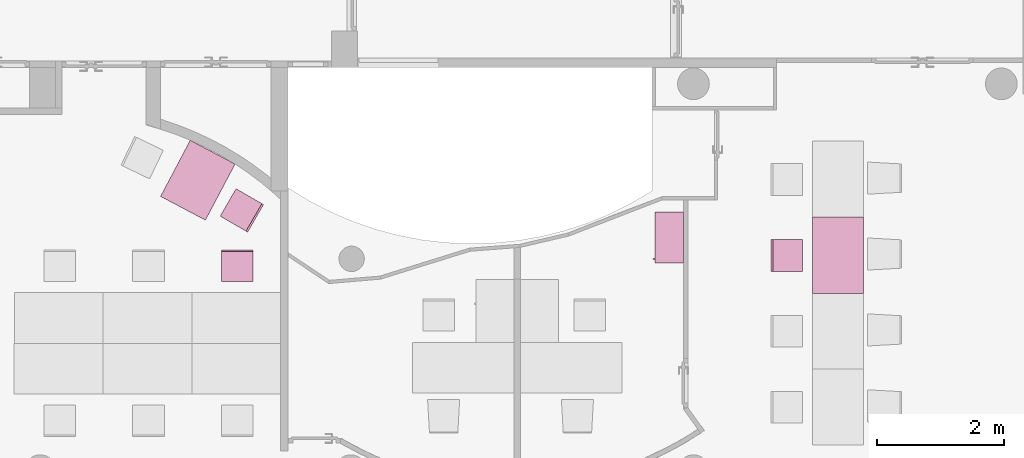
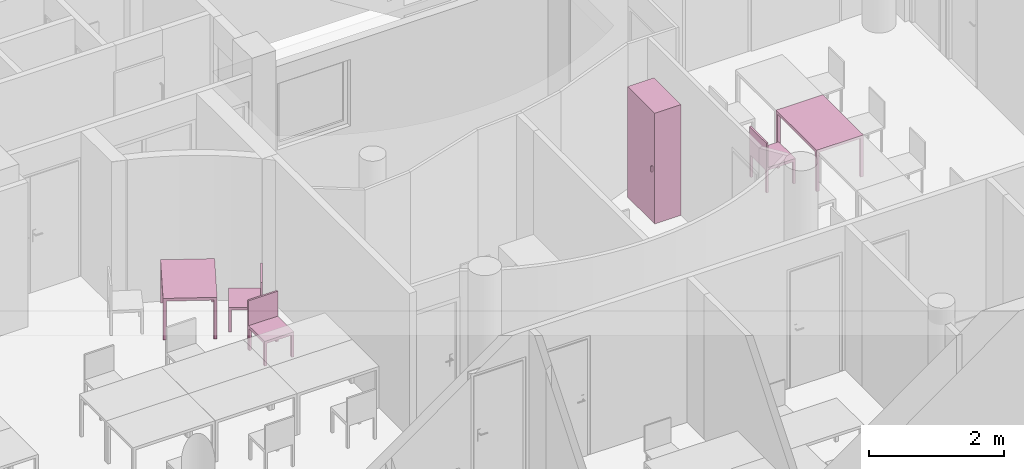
"""IFC4 building model written with IfcOpenShell, lengths in metres."""

from ifc_helpers import new_model, entity, si_unit, converted_unit, derived_unit, frame, origin, place, context, subcontext, project, spatial, faceted_brep, element, save


model = new_model("IFC4")

# Units and contexts
model_context = context("Model", 3, precision=1e-05, world=origin())
body_context = subcontext(model_context, "Body", "Model", "MODEL_VIEW")
ifc_project = project(units=[si_unit("LENGTHUNIT", "METRE"), si_unit("AREAUNIT", "SQUARE_METRE"), si_unit("VOLUMEUNIT", "CUBIC_METRE"), si_unit("MASSUNIT", "GRAM", prefix="KILO"), converted_unit("PLANEANGLEUNIT", "DEGREE", entity("IfcPlaneAngleMeasure", 0.0174532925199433), si_unit("PLANEANGLEUNIT", "RADIAN"), dimensions=[0, 0, 0, 0, 0, 0, 0]), derived_unit("THERMALTRANSMITTANCEUNIT", [(si_unit("POWERUNIT", "WATT"), 1), (si_unit("THERMODYNAMICTEMPERATUREUNIT", "KELVIN"), -1), (si_unit("LENGTHUNIT", "METRE"), -2)]), derived_unit("VOLUMETRICFLOWRATEUNIT", [(si_unit("LENGTHUNIT", "METRE"), 3), (converted_unit("TIMEUNIT", "hour", entity("IfcTimeMeasure", 3600.0), si_unit("TIMEUNIT", "SECOND"), dimensions=[0, 0, 1, 0, 0, 0, 0]), -1), (si_unit("LENGTHUNIT", "METRE"), -1)])], contexts=[model_context])

# Building, storeys
building_placement = place(None, origin())
building = spatial("IfcBuilding", under=ifc_project, at=building_placement, Name="HABITATGE PLURIFAMILIAR", CompositionType="ELEMENT")
storey_1_placement = place(building_placement, frame((0.0, 0.0, 6.25)))
storey_1 = spatial("IfcBuildingStorey", under=building, at=storey_1_placement, Name="PLANTA PRIMERA", CompositionType="ELEMENT", Elevation=6.25)
storey_2_placement = place(storey_1_placement, frame((0.0, 0.0, 3.35)))
storey_2 = spatial("IfcBuildingStorey", under=storey_1, at=storey_2_placement, Name="NOU", CompositionType="PARTIAL")

# Furniture
furniture_1_placement = place(storey_2_placement, frame((418.017336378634, 20.5972245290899, -3.35)))
element("IfcFurniture", 1, at=furniture_1_placement, inside=storey_2, Name="Taula 120X80_P1", context=body_context, shape_type="Brep", body=[
    faceted_brep([(0.750069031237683, 0.0464285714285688, 0.0), (0.750069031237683, 0.0, 0.0), (0.800069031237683, 0.0, 0.0), (0.800069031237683, 0.0464285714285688, 0.0), (0.800069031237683, 0.0464285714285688, 0.7), (0.800069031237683, 0.0, 0.7), (0.750069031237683, 0.0, 0.7), (0.750069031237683, 0.0464285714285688, 0.7)], [[[0, 1, 2, 3]], [[4, 5, 6, 7]], [[3, 4, 7, 0]], [[2, 5, 4, 3]], [[1, 6, 5, 2]], [[0, 7, 6, 1]]], orient=[[False], [False], [False], [False], [False], [False]]),
    faceted_brep([(0.0, 0.0464285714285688, 0.0), (0.0, 0.0, 0.0), (0.0500000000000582, 0.0, 0.0), (0.0500000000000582, 0.0464285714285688, 0.0), (0.0500000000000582, 0.0464285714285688, 0.7), (0.0500000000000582, 0.0, 0.7), (0.0, 0.0, 0.7), (0.0, 0.0464285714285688, 0.7)], [[[0, 1, 2, 3]], [[4, 5, 6, 7]], [[3, 4, 7, 0]], [[2, 5, 4, 3]], [[1, 6, 5, 2]], [[0, 7, 6, 1]]], orient=[[False], [False], [False], [False], [False], [False]]),
    faceted_brep([(0.750069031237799, 1.2, 0.0), (0.750069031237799, 1.15357142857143, 0.0), (0.800069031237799, 1.15357142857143, 0.0), (0.800069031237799, 1.2, 0.0), (0.800069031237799, 1.2, 0.7), (0.800069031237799, 1.15357142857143, 0.7), (0.750069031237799, 1.15357142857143, 0.7), (0.750069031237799, 1.2, 0.7)], [[[0, 1, 2, 3]], [[4, 5, 6, 7]], [[3, 4, 7, 0]], [[2, 5, 4, 3]], [[1, 6, 5, 2]], [[0, 7, 6, 1]]], orient=[[False], [False], [False], [False], [False], [False]]),
    faceted_brep([(0.0, 1.2, 0.0), (0.0, 1.15357142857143, 0.0), (0.0500000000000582, 1.15357142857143, 0.0), (0.0500000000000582, 1.2, 0.0), (0.0500000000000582, 1.2, 0.7), (0.0500000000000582, 1.15357142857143, 0.7), (0.0, 1.15357142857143, 0.7), (0.0, 1.2, 0.7)], [[[0, 1, 2, 3]], [[4, 5, 6, 7]], [[3, 4, 7, 0]], [[2, 5, 4, 3]], [[1, 6, 5, 2]], [[0, 7, 6, 1]]], orient=[[False], [False], [False], [False], [False], [False]]),
    faceted_brep([(0.0, 1.2, 0.7), (0.0, 0.0, 0.7), (0.800069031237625, 0.0, 0.7), (0.800069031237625, 1.2, 0.7), (0.800069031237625, 1.2, 0.75), (0.800069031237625, 0.0, 0.75), (0.0, 0.0, 0.75), (0.0, 1.2, 0.75)], [[[0, 1, 2, 3]], [[4, 5, 6, 7]], [[3, 4, 7, 0]], [[2, 5, 4, 3]], [[1, 6, 5, 2]], [[0, 7, 6, 1]]], orient=[[False], [False], [False], [False], [False], [False]]),
])
furniture_2_placement = place(storey_2_placement, frame((417.357575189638, 20.9431928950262, -3.34942958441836)))
element("IfcFurniture", 2, at=furniture_2_placement, inside=storey_2, Name="Cadira d'Oficina_P1", context=body_context, shape_type="Brep", body=[
    faceted_brep([(0.5, 0.0, 0.4), (0.5, 0.5, 0.4), (0.0, 0.5, 0.4), (0.0, 0.0, 0.4), (0.0, 0.0, 0.45), (0.0, 0.5, 0.45), (0.5, 0.5, 0.45), (0.5, 0.0, 0.45)], [[[0, 1, 2, 3]], [[4, 5, 6, 7]], [[3, 4, 7, 0]], [[2, 5, 4, 3]], [[1, 6, 5, 2]], [[0, 7, 6, 1]]], orient=[[False], [False], [False], [False], [False], [False]]),
    faceted_brep([(0.04, 0.5, 0.0), (0.0, 0.5, 0.0), (0.0, 0.46, 0.0), (0.04, 0.46, 0.0), (0.04, 0.46, 0.4), (0.0, 0.46, 0.4), (0.0, 0.5, 0.4), (0.04, 0.5, 0.4)], [[[0, 1, 2, 3]], [[4, 5, 6, 7]], [[3, 4, 7, 0]], [[2, 5, 4, 3]], [[1, 6, 5, 2]], [[0, 7, 6, 1]]], orient=[[False], [False], [False], [False], [False], [False]]),
    faceted_brep([(0.5, 0.5, 0.0), (0.46, 0.5, 0.0), (0.46, 0.46, 0.0), (0.5, 0.46, 0.0), (0.5, 0.46, 0.4), (0.46, 0.46, 0.4), (0.46, 0.5, 0.4), (0.5, 0.5, 0.4)], [[[0, 1, 2, 3]], [[4, 5, 6, 7]], [[3, 4, 7, 0]], [[2, 5, 4, 3]], [[1, 6, 5, 2]], [[0, 7, 6, 1]]], orient=[[False], [False], [False], [False], [False], [False]]),
    faceted_brep([(0.04, 0.04, 0.0), (0.0, 0.04, 0.0), (0.0, 0.0, 0.0), (0.04, 0.0, 0.0), (0.04, 0.0, 0.4), (0.0, 0.0, 0.4), (0.0, 0.04, 0.4), (0.04, 0.04, 0.4)], [[[0, 1, 2, 3]], [[4, 5, 6, 7]], [[3, 4, 7, 0]], [[2, 5, 4, 3]], [[1, 6, 5, 2]], [[0, 7, 6, 1]]], orient=[[False], [False], [False], [False], [False], [False]]),
    faceted_brep([(0.5, 0.04, 0.0), (0.46, 0.04, 0.0), (0.46, 0.0, 0.0), (0.5, 0.0, 0.0), (0.5, 0.0, 0.4), (0.46, 0.0, 0.4), (0.46, 0.04, 0.4), (0.5, 0.04, 0.4)], [[[0, 1, 2, 3]], [[4, 5, 6, 7]], [[3, 4, 7, 0]], [[2, 5, 4, 3]], [[1, 6, 5, 2]], [[0, 7, 6, 1]]], orient=[[False], [False], [False], [False], [False], [False]]),
    faceted_brep([(0.03, 0.5, 0.45), (0.0, 0.5, 0.45), (0.0, 0.0, 0.45), (0.03, 0.0, 0.45), (0.03, 0.0, 0.9), (0.0, 0.0, 0.9), (0.0, 0.5, 0.9), (0.03, 0.5, 0.9)], [[[0, 1, 2, 3]], [[4, 5, 6, 7]], [[3, 4, 7, 0]], [[2, 5, 4, 3]], [[1, 6, 5, 2]], [[0, 7, 6, 1]]], orient=[[False], [False], [False], [False], [False], [False]]),
])
furniture_3_placement = place(storey_2_placement, frame((408.693907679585, 20.7827469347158, -3.34942958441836)))
element("IfcFurniture", 3, at=furniture_3_placement, inside=storey_2, Name="Cadira d'Oficina_P1", context=body_context, shape_type="Brep", body=[
    faceted_brep([(0.5, 0.0, 0.4), (0.5, 0.500000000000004, 0.4), (0.0, 0.500000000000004, 0.4), (0.0, 0.0, 0.4), (0.5, 0.500000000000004, 0.45), (0.5, 0.0, 0.45), (0.0, 0.0, 0.45), (0.0, 0.500000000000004, 0.45)], [[[0, 1, 2, 3]], [[4, 5, 6, 7]], [[1, 0, 5, 4]], [[2, 1, 4, 7]], [[3, 2, 7, 6]], [[0, 3, 6, 5]]], orient=[[False], [False], [False], [False], [False], [False]]),
    faceted_brep([(0.0, 0.460000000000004, 0.0), (0.04, 0.460000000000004, 0.0), (0.04, 0.500000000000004, 0.0), (0.0, 0.500000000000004, 0.0), (0.04, 0.460000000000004, 0.4), (0.0, 0.460000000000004, 0.4), (0.0, 0.500000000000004, 0.4), (0.04, 0.500000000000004, 0.4)], [[[0, 1, 2, 3]], [[4, 5, 6, 7]], [[1, 0, 5, 4]], [[2, 1, 4, 7]], [[3, 2, 7, 6]], [[0, 3, 6, 5]]], orient=[[False], [False], [False], [False], [False], [False]]),
    faceted_brep([(0.0, 0.0, 0.0), (0.04, 0.0, 0.0), (0.04, 0.04, 0.0), (0.0, 0.04, 0.0), (0.04, 0.0, 0.4), (0.0, 0.0, 0.4), (0.0, 0.04, 0.4), (0.04, 0.04, 0.4)], [[[0, 1, 2, 3]], [[4, 5, 6, 7]], [[1, 0, 5, 4]], [[2, 1, 4, 7]], [[3, 2, 7, 6]], [[0, 3, 6, 5]]], orient=[[False], [False], [False], [False], [False], [False]]),
    faceted_brep([(0.46, 0.460000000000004, 0.0), (0.5, 0.460000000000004, 0.0), (0.5, 0.500000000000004, 0.0), (0.46, 0.500000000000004, 0.0), (0.5, 0.460000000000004, 0.4), (0.46, 0.460000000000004, 0.4), (0.46, 0.500000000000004, 0.4), (0.5, 0.500000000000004, 0.4)], [[[0, 1, 2, 3]], [[4, 5, 6, 7]], [[1, 0, 5, 4]], [[2, 1, 4, 7]], [[3, 2, 7, 6]], [[0, 3, 6, 5]]], orient=[[False], [False], [False], [False], [False], [False]]),
    faceted_brep([(0.46, 0.0, 0.0), (0.5, 0.0, 0.0), (0.5, 0.04, 0.0), (0.46, 0.04, 0.0), (0.5, 0.0, 0.4), (0.46, 0.0, 0.4), (0.46, 0.04, 0.4), (0.5, 0.04, 0.4)], [[[0, 1, 2, 3]], [[4, 5, 6, 7]], [[1, 0, 5, 4]], [[2, 1, 4, 7]], [[3, 2, 7, 6]], [[0, 3, 6, 5]]], orient=[[False], [False], [False], [False], [False], [False]]),
    faceted_brep([(0.0, 0.470000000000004, 0.45), (0.5, 0.470000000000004, 0.45), (0.5, 0.500000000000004, 0.45), (0.0, 0.500000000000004, 0.45), (0.5, 0.470000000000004, 0.9), (0.0, 0.470000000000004, 0.9), (0.0, 0.500000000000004, 0.9), (0.5, 0.500000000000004, 0.9)], [[[0, 1, 2, 3]], [[4, 5, 6, 7]], [[1, 0, 5, 4]], [[2, 1, 4, 7]], [[3, 2, 7, 6]], [[0, 3, 6, 5]]], orient=[[False], [False], [False], [False], [False], [False]]),
])
furniture_4_placement = place(storey_2_placement, frame((408.674896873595, 21.5620742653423, -3.34942958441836)))
element("IfcFurniture", 4, at=furniture_4_placement, inside=storey_2, Name="Cadira d'Oficina_P1", context=body_context, shape_type="Brep", body=[
    faceted_brep([(0.250213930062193, 0.683103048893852, 0.4), (0.0, 0.250213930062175, 0.4), (0.432889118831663, 0.0, 0.4), (0.683103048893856, 0.432889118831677, 0.4), (0.683103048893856, 0.432889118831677, 0.45), (0.432889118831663, 0.0, 0.45), (0.0, 0.250213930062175, 0.45), (0.250213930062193, 0.683103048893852, 0.45)], [[[0, 1, 2, 3]], [[4, 5, 6, 7]], [[3, 4, 7, 0]], [[2, 5, 4, 3]], [[1, 6, 5, 2]], [[0, 7, 6, 1]]], orient=[[False], [False], [False], [False], [False], [False]]),
    faceted_brep([(0.398257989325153, 0.0200171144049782, 0.0), (0.432889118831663, 0.0, 0.0), (0.452906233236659, 0.0346311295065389, 0.0), (0.41827510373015, 0.0546482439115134, 0.0), (0.41827510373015, 0.0546482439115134, 0.4), (0.452906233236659, 0.0346311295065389, 0.4), (0.432889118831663, 0.0, 0.4), (0.398257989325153, 0.0200171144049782, 0.4)], [[[0, 1, 2, 3]], [[4, 5, 6, 7]], [[3, 4, 7, 0]], [[2, 5, 4, 3]], [[1, 6, 5, 2]], [[0, 7, 6, 1]]], orient=[[False], [False], [False], [False], [False], [False]]),
    faceted_brep([(0.0, 0.250213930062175, 0.0), (0.034631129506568, 0.230196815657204, 0.0), (0.0546482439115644, 0.264827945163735, 0.0), (0.0200171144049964, 0.28484505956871, 0.0), (0.0200171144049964, 0.28484505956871, 0.4), (0.0546482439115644, 0.264827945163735, 0.4), (0.034631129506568, 0.230196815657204, 0.4), (0.0, 0.250213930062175, 0.4)], [[[0, 1, 2, 3]], [[4, 5, 6, 7]], [[3, 4, 7, 0]], [[2, 5, 4, 3]], [[1, 6, 5, 2]], [[0, 7, 6, 1]]], orient=[[False], [False], [False], [False], [False], [False]]),
    faceted_brep([(0.62845480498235, 0.41827510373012, 0.0), (0.663085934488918, 0.398257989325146, 0.0), (0.683103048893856, 0.432889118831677, 0.0), (0.648471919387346, 0.452906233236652, 0.0), (0.648471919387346, 0.452906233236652, 0.4), (0.683103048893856, 0.432889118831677, 0.4), (0.663085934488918, 0.398257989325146, 0.4), (0.62845480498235, 0.41827510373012, 0.4)], [[[0, 1, 2, 3]], [[4, 5, 6, 7]], [[3, 4, 7, 0]], [[2, 5, 4, 3]], [[1, 6, 5, 2]], [[0, 7, 6, 1]]], orient=[[False], [False], [False], [False], [False], [False]]),
    faceted_brep([(0.230196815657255, 0.648471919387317, 0.0), (0.264827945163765, 0.628454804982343, 0.0), (0.284845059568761, 0.663085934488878, 0.0), (0.250213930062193, 0.683103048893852, 0.0), (0.250213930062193, 0.683103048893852, 0.4), (0.284845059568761, 0.663085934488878, 0.4), (0.264827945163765, 0.628454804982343, 0.4), (0.230196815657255, 0.648471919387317, 0.4)], [[[0, 1, 2, 3]], [[4, 5, 6, 7]], [[3, 4, 7, 0]], [[2, 5, 4, 3]], [[1, 6, 5, 2]], [[0, 7, 6, 1]]], orient=[[False], [False], [False], [False], [False], [False]]),
    faceted_brep([(0.406915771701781, 0.0150128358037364, 0.45), (0.432889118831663, 0.0, 0.45), (0.683103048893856, 0.432889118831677, 0.45), (0.657129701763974, 0.44790195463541, 0.45), (0.657129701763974, 0.44790195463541, 0.9), (0.683103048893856, 0.432889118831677, 0.9), (0.432889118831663, 0.0, 0.9), (0.406915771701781, 0.0150128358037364, 0.9)], [[[0, 1, 2, 3]], [[4, 5, 6, 7]], [[3, 4, 7, 0]], [[2, 5, 4, 3]], [[1, 6, 5, 2]], [[0, 7, 6, 1]]], orient=[[False], [False], [False], [False], [False], [False]]),
])
furniture_5_placement = place(storey_2_placement, frame((407.734554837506, 21.7503724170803, -3.35)))
element("IfcFurniture", 5, at=furniture_5_placement, inside=storey_2, Name="Taula 100X80_P1", context=body_context, shape_type="Brep", body=[
    faceted_brep([(1.13044643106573, 0.907454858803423, 0.0), (1.10874949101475, 0.866407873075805, 0.0), (1.15295393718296, 0.843041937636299, 0.0), (1.17465087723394, 0.884088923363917, 0.0), (1.17465087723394, 0.884088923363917, 0.7), (1.15295393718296, 0.843041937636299, 0.7), (1.10874949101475, 0.866407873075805, 0.7), (1.13044643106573, 0.907454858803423, 0.7)], [[[0, 1, 2, 3]], [[4, 5, 6, 7]], [[3, 4, 7, 0]], [[2, 5, 4, 3]], [[1, 6, 5, 2]], [[0, 7, 6, 1]]], orient=[[False], [False], [False], [False], [False], [False]]),
    faceted_brep([(0.467318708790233, 1.25797614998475, 0.0), (0.445621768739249, 1.21692916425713, 0.0), (0.4898262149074, 1.19356322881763, 0.0), (0.511523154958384, 1.23461021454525, 0.0), (0.511523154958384, 1.23461021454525, 0.7), (0.4898262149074, 1.19356322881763, 0.7), (0.445621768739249, 1.21692916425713, 0.7), (0.467318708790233, 1.25797614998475, 0.7)], [[[0, 1, 2, 3]], [[4, 5, 6, 7]], [[3, 4, 7, 0]], [[2, 5, 4, 3]], [[1, 6, 5, 2]], [[0, 7, 6, 1]]], orient=[[False], [False], [False], [False], [False], [False]]),
    faceted_brep([(0.684824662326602, 0.0644129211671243, 0.0), (0.663127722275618, 0.0233659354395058, 0.0), (0.707332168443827, 0.0, 0.0), (0.729029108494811, 0.0410469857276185, 0.0), (0.729029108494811, 0.0410469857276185, 0.7), (0.707332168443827, 0.0, 0.7), (0.663127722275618, 0.0233659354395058, 0.7), (0.684824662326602, 0.0644129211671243, 0.7)], [[[0, 1, 2, 3]], [[4, 5, 6, 7]], [[3, 4, 7, 0]], [[2, 5, 4, 3]], [[1, 6, 5, 2]], [[0, 7, 6, 1]]], orient=[[False], [False], [False], [False], [False], [False]]),
    faceted_brep([(0.0216969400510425, 0.414934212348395, 0.0), (0.0, 0.373887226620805, 0.0), (0.0442044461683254, 0.3505212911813, 0.0), (0.0659013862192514, 0.391568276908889, 0.0), (0.0659013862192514, 0.391568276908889, 0.7), (0.0442044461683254, 0.3505212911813, 0.7), (0.0, 0.373887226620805, 0.7), (0.0216969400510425, 0.414934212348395, 0.7)], [[[0, 1, 2, 3]], [[4, 5, 6, 7]], [[3, 4, 7, 0]], [[2, 5, 4, 3]], [[1, 6, 5, 2]], [[0, 7, 6, 1]]], orient=[[False], [False], [False], [False], [False], [False]]),
    faceted_brep([(0.467318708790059, 1.25797614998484, 0.7), (0.0, 0.373887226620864, 0.7), (0.707332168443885, 0.0, 0.7), (1.17465087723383, 0.884088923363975, 0.7), (1.17465087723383, 0.884088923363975, 0.75), (0.707332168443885, 0.0, 0.75), (0.0, 0.373887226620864, 0.75), (0.467318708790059, 1.25797614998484, 0.75)], [[[0, 1, 2, 3]], [[4, 5, 6, 7]], [[3, 4, 7, 0]], [[2, 5, 4, 3]], [[1, 6, 5, 2]], [[0, 7, 6, 1]]], orient=[[False], [False], [False], [False], [False], [False]]),
])
furniture_6_placement = place(storey_2_placement, frame((415.498400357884, 21.0781379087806, -3.35)))
element("IfcFurniture", 6, at=furniture_6_placement, inside=storey_2, Name="Armai 80x45", context=body_context, shape_type="Brep", body=[
    faceted_brep([(0.05, 0.78, 1.98), (0.03, 0.78, 1.98), (0.03, 0.78, 0.02), (0.05, 0.78, 0.02), (0.03, 0.0, 0.02), (0.05, 0.0, 0.02), (0.03, 0.0, 1.98), (0.05, 0.0, 1.98)], [[[0, 1, 2, 3]], [[3, 2, 4, 5]], [[5, 4, 6, 7]], [[7, 6, 1, 0]], [[0, 3, 5, 7]], [[1, 6, 4, 2]]], orient=[[False], [False], [False], [False], [False], [False]]),
    faceted_brep([(0.0300000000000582, 0.8, 1.98), (0.0300000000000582, 0.78, 1.98), (0.0300000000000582, 0.78, 0.02), (0.0300000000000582, 0.8, 0.02), (0.480000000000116, 0.78, 0.02), (0.480000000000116, 0.8, 0.02), (0.480000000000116, 0.78, 1.98), (0.480000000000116, 0.8, 1.98)], [[[0, 1, 2, 3]], [[3, 2, 4, 5]], [[5, 4, 6, 7]], [[7, 6, 1, 0]], [[0, 3, 5, 7]], [[1, 6, 4, 2]]], orient=[[False], [False], [False], [False], [False], [False]]),
    faceted_brep([(0.0300000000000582, 0.0, 0.02), (0.0300000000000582, 0.0, 0.0), (0.0300000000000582, 0.8, 0.0), (0.0300000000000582, 0.8, 0.02), (0.480000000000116, 0.8, 0.0), (0.480000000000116, 0.8, 0.02), (0.480000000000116, 0.0, 0.0), (0.480000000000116, 0.0, 0.02)], [[[0, 1, 2, 3]], [[3, 2, 4, 5]], [[5, 4, 6, 7]], [[7, 6, 1, 0]], [[0, 3, 5, 7]], [[1, 6, 4, 2]]], orient=[[False], [False], [False], [False], [False], [False]]),
    faceted_brep([(0.03, 0.0, 2.0), (0.03, 0.0, 1.98), (0.03, 0.8, 1.98), (0.03, 0.8, 2.0), (0.480000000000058, 0.8, 1.98), (0.480000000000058, 0.8, 2.0), (0.480000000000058, 0.0, 1.98), (0.480000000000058, 0.0, 2.0)], [[[0, 1, 2, 3]], [[3, 2, 4, 5]], [[5, 4, 6, 7]], [[7, 6, 1, 0]], [[0, 3, 5, 7]], [[1, 6, 4, 2]]], orient=[[False], [False], [False], [False], [False], [False]]),
    faceted_brep([(0.0300000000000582, 0.02, 1.98), (0.0300000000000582, 0.0, 1.98), (0.0300000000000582, 0.0, 0.02), (0.0300000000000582, 0.02, 0.02), (0.480000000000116, 0.0, 0.02), (0.480000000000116, 0.02, 0.02), (0.480000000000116, 0.0, 1.98), (0.480000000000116, 0.02, 1.98)], [[[0, 1, 2, 3]], [[3, 2, 4, 5]], [[5, 4, 6, 7]], [[7, 6, 1, 0]], [[0, 3, 5, 7]], [[1, 6, 4, 2]]], orient=[[False], [False], [False], [False], [False], [False]]),
    faceted_brep([(0.480000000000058, 0.78, 1.98), (0.460000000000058, 0.78, 1.98), (0.460000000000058, 0.78, 0.02), (0.480000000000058, 0.78, 0.02), (0.460000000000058, 0.02, 0.02), (0.480000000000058, 0.02, 0.02), (0.460000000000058, 0.02, 1.98), (0.480000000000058, 0.02, 1.98)], [[[0, 1, 2, 3]], [[3, 2, 4, 5]], [[5, 4, 6, 7]], [[7, 6, 1, 0]], [[0, 3, 5, 7]], [[1, 6, 4, 2]]], orient=[[False], [False], [False], [False], [False], [False]]),
    faceted_brep([(0.0500000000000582, 0.0, 1.98), (0.0300000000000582, 0.0, 1.98), (0.0300000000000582, 0.0, 0.02), (0.0500000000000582, 0.0, 0.02), (0.0300000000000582, 0.02, 0.02), (0.0500000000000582, 0.02, 0.02), (0.0300000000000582, 0.02, 1.98), (0.0500000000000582, 0.02, 1.98)], [[[0, 1, 2, 3]], [[3, 2, 4, 5]], [[5, 4, 6, 7]], [[7, 6, 1, 0]], [[0, 3, 5, 7]], [[1, 6, 4, 2]]], orient=[[False], [False], [False], [False], [False], [False]]),
    faceted_brep([(0.03, 0.07, 1.01806481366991), (0.0, 0.07, 1.01806481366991), (0.0, 0.07, 0.918064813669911), (0.03, 0.07, 0.918064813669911), (0.0, 0.05, 0.918064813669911), (0.03, 0.05, 0.918064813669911), (0.0, 0.05, 1.01806481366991), (0.03, 0.05, 1.01806481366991)], [[[0, 1, 2, 3]], [[3, 2, 4, 5]], [[5, 4, 6, 7]], [[7, 6, 1, 0]], [[0, 3, 5, 7]], [[1, 6, 4, 2]]], orient=[[False], [False], [False], [False], [False], [False]]),
])

save(model, "model.ifc")
